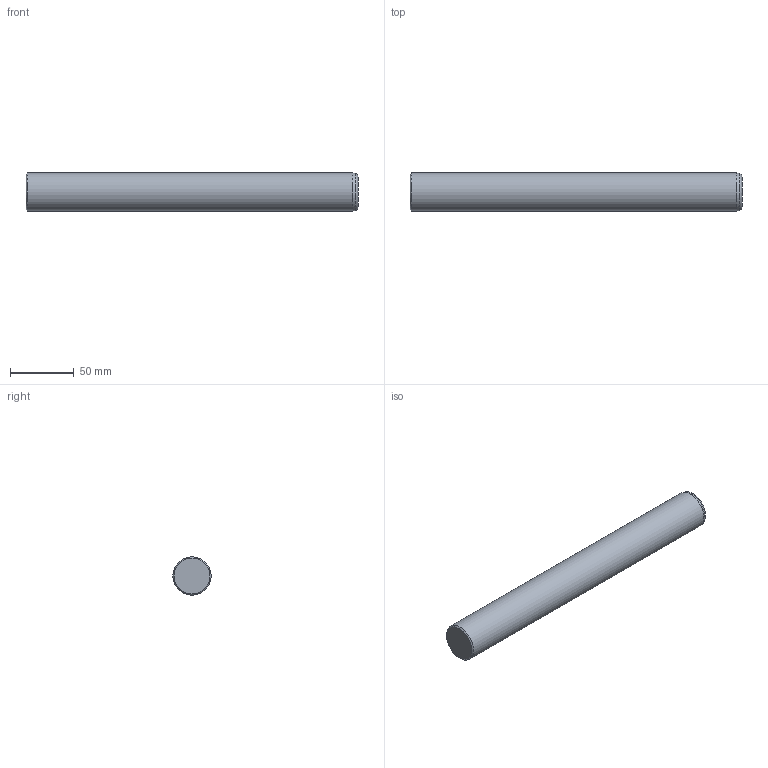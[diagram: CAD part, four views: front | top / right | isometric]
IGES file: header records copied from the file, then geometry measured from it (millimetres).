
Global section: file name: CIS30260.ipt; native system: Autodesk Inventor 2021; preprocessor: unknown; author: SM; date: 20211220.124426; units: millimetre
Bounding box: 260 x 30 x 30 mm (x, y, z)
Volume: 183462 mm3; surface area: 25704.3 mm2
Topology: 1 solids, 1 shells, 6 faces, 11 edges, 7 vertices
Faces by surface type: cone 2, plane 2, revolution 1, cylinder 1
Full cylindrical faces by diameter (mm): 30 x1
